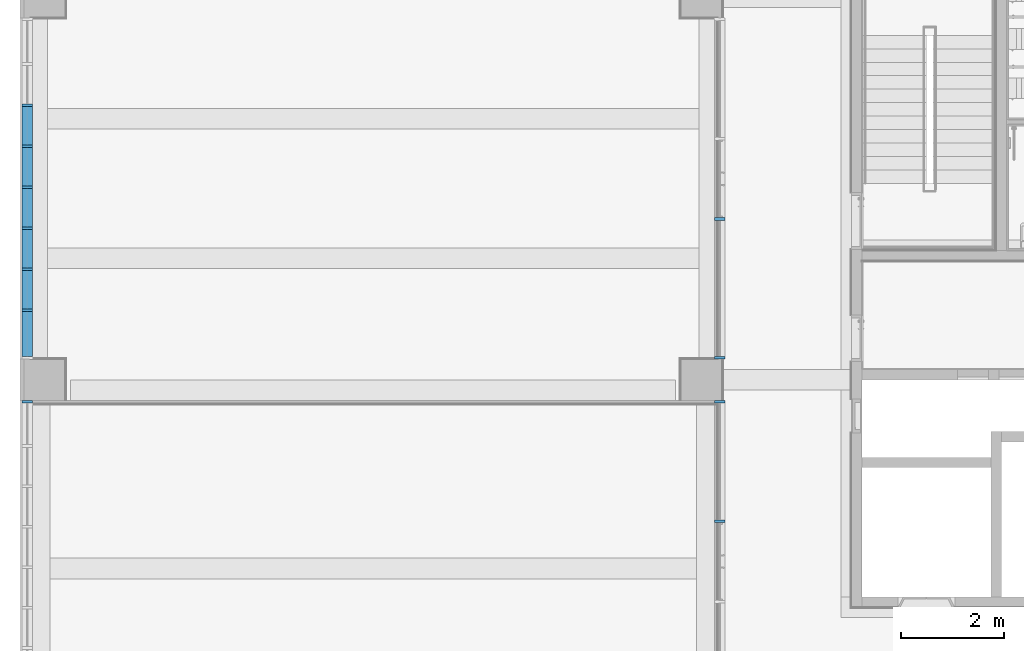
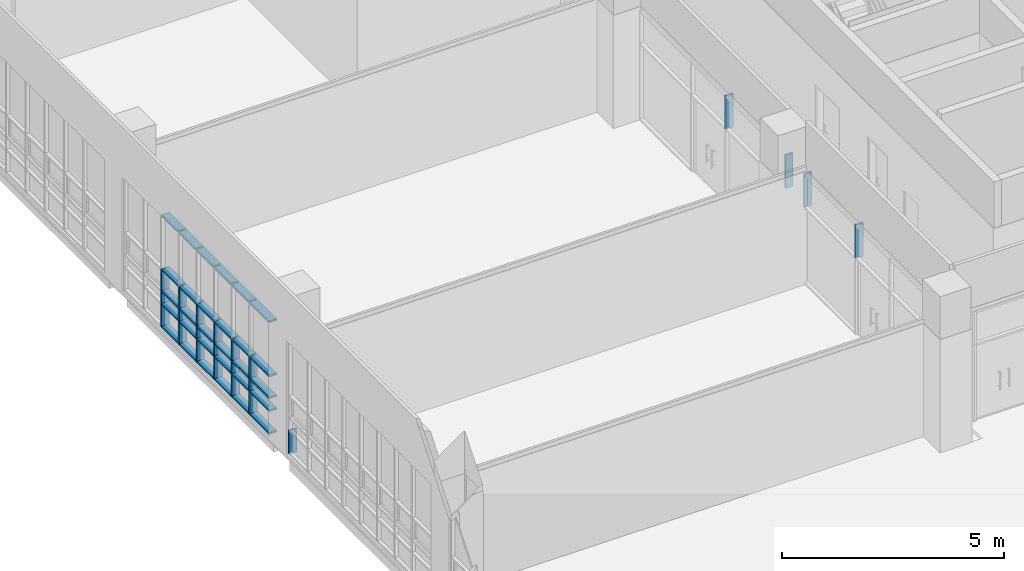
# One storey, part 19 of 74: 53 members, 4 elements without a shape of their own.
"""IFC2X3 building model written with IfcOpenShell, lengths in millimetres."""

from ifc_helpers import new_model, entity, si_unit, converted_unit, derived_unit, direction, frame, origin, origin_2d_with_axis, place, context, subcontext, project, spatial, rectangle, extrude, source, transform, mapped, material, type_object, type_shapes, element, aggregate, save


model = new_model("IFC2X3")

# Units and contexts
model_context = context("Model", 3, precision=0.01, world=origin(), true_north=direction((6.123031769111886e-17, 1.0)))
body_context = subcontext(model_context, "Body", "Model", "MODEL_VIEW")
ifc_project = project(units=[si_unit("LENGTHUNIT", "METRE", prefix="MILLI"), si_unit("AREAUNIT", "SQUARE_METRE"), si_unit("VOLUMEUNIT", "CUBIC_METRE"), converted_unit("PLANEANGLEUNIT", "DEGREE", entity("IfcRatioMeasure", 0.017453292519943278), si_unit("PLANEANGLEUNIT", "RADIAN"), dimensions=[0, 0, 0, 0, 0, 0, 0]), si_unit("MASSUNIT", "GRAM", prefix="KILO"), derived_unit("MASSDENSITYUNIT", [(si_unit("MASSUNIT", "GRAM", prefix="KILO"), 1), (si_unit("LENGTHUNIT", "METRE"), -3)]), derived_unit("MOMENTOFINERTIAUNIT", [(si_unit("LENGTHUNIT", "METRE"), 4)]), si_unit("TIMEUNIT", "SECOND"), si_unit("FREQUENCYUNIT", "HERTZ"), si_unit("THERMODYNAMICTEMPERATUREUNIT", "DEGREE_CELSIUS"), derived_unit("THERMALTRANSMITTANCEUNIT", [(si_unit("MASSUNIT", "GRAM", prefix="KILO"), 1), (si_unit("THERMODYNAMICTEMPERATUREUNIT", "KELVIN"), -1), (si_unit("TIMEUNIT", "SECOND"), -3)]), derived_unit("VOLUMETRICFLOWRATEUNIT", [(si_unit("LENGTHUNIT", "METRE"), 3), (si_unit("TIMEUNIT", "SECOND"), -1)]), derived_unit("MASSFLOWRATEUNIT", [(si_unit("MASSUNIT", "GRAM", prefix="KILO"), 1), (si_unit("TIMEUNIT", "SECOND"), -1)]), derived_unit("ROTATIONALFREQUENCYUNIT", [(si_unit("TIMEUNIT", "SECOND"), -1)]), si_unit("ELECTRICCURRENTUNIT", "AMPERE"), si_unit("ELECTRICVOLTAGEUNIT", "VOLT"), si_unit("POWERUNIT", "WATT"), si_unit("FORCEUNIT", "NEWTON", prefix="KILO"), si_unit("ILLUMINANCEUNIT", "LUX"), si_unit("LUMINOUSFLUXUNIT", "LUMEN"), si_unit("LUMINOUSINTENSITYUNIT", "CANDELA"), derived_unit("USERDEFINED", [(si_unit("MASSUNIT", "GRAM", prefix="KILO"), -1), (si_unit("LENGTHUNIT", "METRE"), -2), (si_unit("TIMEUNIT", "SECOND"), 3), (si_unit("LUMINOUSFLUXUNIT", "LUMEN"), 1)]), derived_unit("SOUNDPOWERUNIT", [(si_unit("MASSUNIT", "GRAM", prefix="KILO"), 1), (si_unit("LENGTHUNIT", "METRE"), 2), (si_unit("TIMEUNIT", "SECOND"), -3)]), derived_unit("SOUNDPRESSUREUNIT", [(si_unit("MASSUNIT", "GRAM", prefix="KILO"), 1), (si_unit("LENGTHUNIT", "METRE"), -1), (si_unit("TIMEUNIT", "SECOND"), -2)]), derived_unit("LINEARVELOCITYUNIT", [(si_unit("LENGTHUNIT", "METRE"), 1), (si_unit("TIMEUNIT", "SECOND"), -1)]), si_unit("PRESSUREUNIT", "PASCAL"), derived_unit("USERDEFINED", [(si_unit("LENGTHUNIT", "METRE"), -2), (si_unit("MASSUNIT", "GRAM", prefix="KILO"), 1), (si_unit("TIMEUNIT", "SECOND"), -2)]), derived_unit("LINEARFORCEUNIT", [(si_unit("MASSUNIT", "GRAM", prefix="KILO"), 1), (si_unit("LENGTHUNIT", "METRE"), 1), (si_unit("TIMEUNIT", "SECOND"), -2), (si_unit("LENGTHUNIT", "METRE"), -1)]), derived_unit("PLANARFORCEUNIT", [(si_unit("MASSUNIT", "GRAM", prefix="KILO"), 1), (si_unit("LENGTHUNIT", "METRE"), 1), (si_unit("TIMEUNIT", "SECOND"), -2), (si_unit("LENGTHUNIT", "METRE"), -2)])], contexts=[model_context])

# Site, building, storey
site_placement = place(None, frame((-14167.972527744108, -657.2125860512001, 0.0)))
site = spatial("IfcSite", under=ifc_project, at=site_placement, Name="Default", CompositionType="ELEMENT")
building_placement = place(site_placement, origin())
building = spatial("IfcBuilding", under=site, at=building_placement, Name="Sample Building", CompositionType="ELEMENT")
storey_placement = place(building_placement, frame((0.0, 0.0, 4800.0)))
storey = spatial("IfcBuildingStorey", under=building, at=storey_placement, Name="지상 2층", CompositionType="ELEMENT", Elevation=4800.000000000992)

# Curtain wall, members
curtain_wall_type = type_object("IfcCurtainWallType", Name="커튼월:CW112-스테인리스 스틸 커튼월", PredefinedType="NOTDEFINED")
curtain_wall_1_placement = place(storey_placement, frame((0.0, 0.0, -4800.0)))
curtain_wall_1 = element("IfcCurtainWall", 1, at=curtain_wall_1_placement, inside=storey, type_object=curtain_wall_type, Name="커튼월:CW112-스테인리스 스틸 커튼월", ObjectType="커튼월:CW112-스테인리스 스틸 커튼월")
ifc_material = material(Name="<Unnamed>")
member_type_1 = type_object("IfcMemberType", Name="직사각형 멀리언:CW200-직사각형 멀리언 50x200mm", PredefinedType="MULLION", material=ifc_material)
shared_shape_1 = source(origin(), body_context, "Body", "SweptSolid", [
    extrude(rectangle(XDim=200.0, YDim=50.0, at=origin_2d_with_axis()), frame((-25.0, 0.0, -868.7673840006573), z_axis=(0.0, 0.0, 1.0), x_axis=(0.0, -1.0, 0.0)), (0.0, 0.0, 1.0), 868.7673840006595),
])
type_shapes(member_type_1, [shared_shape_1])
member_1_placement = place(curtain_wall_1_placement, frame((14129.839654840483, 20407.19489124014, 8000.0), z_axis=(0.0, -1.0, 0.0), x_axis=(0.0, 0.0, 1.0)))
member_1 = element("IfcMember", 2, at=member_1_placement, type_object=member_type_1, material=ifc_material, Name="직사각형 멀리언:CW200-직사각형 멀리언 50x200mm", ObjectType="직사각형 멀리언:CW200-직사각형 멀리언 50x200mm", context=body_context, shape_type="MappedRepresentation", body=[
    mapped(shared_shape_1, transform((0.0, 0.0, 0.0), scale=1.0)),
])
member_type_2 = type_object("IfcMemberType", Name="직사각형 멀리언:CW200-직사각형 멀리언 50x200mm", PredefinedType="MULLION", material=ifc_material)
shared_shape_2 = source(origin(), body_context, "Body", "SweptSolid", [
    extrude(rectangle(XDim=200.0, YDim=50.0, at=origin_2d_with_axis()), frame((-25.0, 0.0, -743.7500000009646), z_axis=(0.0, 0.0, 1.0), x_axis=(0.0, -1.0, 0.0)), (0.0, 0.0, 1.0), 743.7500000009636),
])
type_shapes(member_type_2, [shared_shape_2])
member_2_placement = place(curtain_wall_1_placement, frame((14129.839654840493, 25244.712275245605, 4880.0), z_axis=(0.0, 1.0, 0.0), x_axis=(0.0, 0.0, -1.0)))
member_2 = element("IfcMember", 3, at=member_2_placement, type_object=member_type_2, material=ifc_material, Name="직사각형 멀리언:CW200-직사각형 멀리언 50x200mm", ObjectType="직사각형 멀리언:CW200-직사각형 멀리언 50x200mm", context=body_context, shape_type="MappedRepresentation", body=[
    mapped(shared_shape_2, transform((0.0, 0.0, 0.0), scale=1.0)),
])
member_3_placement = place(curtain_wall_1_placement, frame((14129.83965484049, 24450.962275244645, 4880.0), z_axis=(0.0, 1.0, 0.0), x_axis=(0.0, 0.0, -1.0)))
member_3 = element("IfcMember", 4, at=member_3_placement, type_object=member_type_2, material=ifc_material, Name="직사각형 멀리언:CW200-직사각형 멀리언 50x200mm", ObjectType="직사각형 멀리언:CW200-직사각형 멀리언 50x200mm", context=body_context, shape_type="MappedRepresentation", body=[
    mapped(shared_shape_2, transform((0.0, 0.0, 0.0), scale=1.0)),
])
member_4_placement = place(curtain_wall_1_placement, frame((14129.83965484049, 23657.212275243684, 4880.0), z_axis=(0.0, 1.0, 0.0), x_axis=(0.0, 0.0, -1.0)))
member_4 = element("IfcMember", 5, at=member_4_placement, type_object=member_type_2, material=ifc_material, Name="직사각형 멀리언:CW200-직사각형 멀리언 50x200mm", ObjectType="직사각형 멀리언:CW200-직사각형 멀리언 50x200mm", context=body_context, shape_type="MappedRepresentation", body=[
    mapped(shared_shape_2, transform((0.0, 0.0, 0.0), scale=1.0)),
])
member_5_placement = place(curtain_wall_1_placement, frame((14129.839654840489, 22863.46227524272, 4880.0), z_axis=(0.0, 1.0, 0.0), x_axis=(0.0, 0.0, -1.0)))
member_5 = element("IfcMember", 6, at=member_5_placement, type_object=member_type_2, material=ifc_material, Name="직사각형 멀리언:CW200-직사각형 멀리언 50x200mm", ObjectType="직사각형 멀리언:CW200-직사각형 멀리언 50x200mm", context=body_context, shape_type="MappedRepresentation", body=[
    mapped(shared_shape_2, transform((0.0, 0.0, 0.0), scale=1.0)),
])
member_6_placement = place(curtain_wall_1_placement, frame((14129.839654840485, 22069.71227524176, 4880.0), z_axis=(0.0, 1.0, 0.0), x_axis=(0.0, 0.0, -1.0)))
member_6 = element("IfcMember", 7, at=member_6_placement, type_object=member_type_2, material=ifc_material, Name="직사각형 멀리언:CW200-직사각형 멀리언 50x200mm", ObjectType="직사각형 멀리언:CW200-직사각형 멀리언 50x200mm", context=body_context, shape_type="MappedRepresentation", body=[
    mapped(shared_shape_2, transform((0.0, 0.0, 0.0), scale=1.0)),
])
member_type_3 = type_object("IfcMemberType", Name="직사각형 멀리언:CW200-직사각형 멀리언 50x200mm", PredefinedType="MULLION", material=ifc_material)
shared_shape_3 = source(origin(), body_context, "Body", "SweptSolid", [
    extrude(rectangle(XDim=200.0, YDim=50.0, at=origin_2d_with_axis()), frame((0.0, 0.0, -650.0), z_axis=(0.0, 0.0, 1.0), x_axis=(0.0, -1.0, 0.0)), (0.0, 0.0, 1.0), 650.0000000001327),
])
type_shapes(member_type_3, [shared_shape_3])
member_7_placement = place(curtain_wall_1_placement, frame((14129.839654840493, 25269.712275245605, 4880.0), z_axis=(0.0, 0.0, -1.0), x_axis=(0.0, -1.0, 0.0)))
member_7 = element("IfcMember", 8, at=member_7_placement, type_object=member_type_3, material=ifc_material, Name="직사각형 멀리언:CW200-직사각형 멀리언 50x200mm", ObjectType="직사각형 멀리언:CW200-직사각형 멀리언 50x200mm", context=body_context, shape_type="MappedRepresentation", body=[
    mapped(shared_shape_3, transform((0.0, 0.0, 0.0), scale=1.0)),
])
member_8_placement = place(curtain_wall_1_placement, frame((14129.83965484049, 24475.962275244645, 4880.0), z_axis=(0.0, 0.0, -1.0), x_axis=(0.0, -1.0, 0.0)))
member_8 = element("IfcMember", 9, at=member_8_placement, type_object=member_type_3, material=ifc_material, Name="직사각형 멀리언:CW200-직사각형 멀리언 50x200mm", ObjectType="직사각형 멀리언:CW200-직사각형 멀리언 50x200mm", context=body_context, shape_type="MappedRepresentation", body=[
    mapped(shared_shape_3, transform((0.0, 0.0, 0.0), scale=1.0)),
])
member_9_placement = place(curtain_wall_1_placement, frame((14129.83965484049, 23682.21227524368, 4880.0), z_axis=(0.0, 0.0, -1.0), x_axis=(0.0, -1.0, 0.0)))
member_9 = element("IfcMember", 10, at=member_9_placement, type_object=member_type_3, material=ifc_material, Name="직사각형 멀리언:CW200-직사각형 멀리언 50x200mm", ObjectType="직사각형 멀리언:CW200-직사각형 멀리언 50x200mm", context=body_context, shape_type="MappedRepresentation", body=[
    mapped(shared_shape_3, transform((0.0, 0.0, 0.0), scale=1.0)),
])
member_10_placement = place(curtain_wall_1_placement, frame((14129.839654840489, 22888.46227524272, 4880.0), z_axis=(0.0, 0.0, -1.0), x_axis=(0.0, -1.0, 0.0)))
member_10 = element("IfcMember", 11, at=member_10_placement, type_object=member_type_3, material=ifc_material, Name="직사각형 멀리언:CW200-직사각형 멀리언 50x200mm", ObjectType="직사각형 멀리언:CW200-직사각형 멀리언 50x200mm", context=body_context, shape_type="MappedRepresentation", body=[
    mapped(shared_shape_3, transform((0.0, 0.0, 0.0), scale=1.0)),
])
member_11_placement = place(curtain_wall_1_placement, frame((14129.839654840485, 22094.71227524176, 4880.0), z_axis=(0.0, 0.0, -1.0), x_axis=(0.0, -1.0, 0.0)))
member_11 = element("IfcMember", 12, at=member_11_placement, type_object=member_type_3, material=ifc_material, Name="직사각형 멀리언:CW200-직사각형 멀리언 50x200mm", ObjectType="직사각형 멀리언:CW200-직사각형 멀리언 50x200mm", context=body_context, shape_type="MappedRepresentation", body=[
    mapped(shared_shape_3, transform((0.0, 0.0, 0.0), scale=1.0)),
])
member_12_placement = place(curtain_wall_1_placement, frame((14129.839654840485, 21300.962275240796, 4880.0), z_axis=(0.0, 0.0, -1.0), x_axis=(0.0, -1.0, 0.0)))
member_12 = element("IfcMember", 13, at=member_12_placement, type_object=member_type_3, material=ifc_material, Name="직사각형 멀리언:CW200-직사각형 멀리언 50x200mm", ObjectType="직사각형 멀리언:CW200-직사각형 멀리언 50x200mm", context=body_context, shape_type="MappedRepresentation", body=[
    mapped(shared_shape_3, transform((0.0, 0.0, 0.0), scale=1.0)),
])
member_type_4 = type_object("IfcMemberType", Name="직사각형 멀리언:CW200-직사각형 멀리언 50x200mm", PredefinedType="MULLION", material=ifc_material)
shared_shape_4 = source(origin(), body_context, "Body", "SweptSolid", [
    extrude(rectangle(XDim=200.0, YDim=50.0, at=origin_2d_with_axis()), frame((0.0, 0.0, -743.7500000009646), z_axis=(0.0, 0.0, 1.0), x_axis=(0.0, -1.0, 0.0)), (0.0, 0.0, 1.0), 743.7500000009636),
])
type_shapes(member_type_4, [shared_shape_4])
member_13_placement = place(curtain_wall_1_placement, frame((14129.83965484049, 24500.962275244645, 6480.0), z_axis=(0.0, -1.0, 0.0), x_axis=(0.0, 0.0, 1.0)))
member_13 = element("IfcMember", 14, at=member_13_placement, type_object=member_type_4, material=ifc_material, Name="직사각형 멀리언:CW200-직사각형 멀리언 50x200mm", ObjectType="직사각형 멀리언:CW200-직사각형 멀리언 50x200mm", context=body_context, shape_type="MappedRepresentation", body=[
    mapped(shared_shape_4, transform((0.0, 0.0, 0.0), scale=1.0)),
])
member_14_placement = place(curtain_wall_1_placement, frame((14129.83965484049, 23707.21227524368, 6480.0), z_axis=(0.0, -1.0, 0.0), x_axis=(0.0, 0.0, 1.0)))
member_14 = element("IfcMember", 15, at=member_14_placement, type_object=member_type_4, material=ifc_material, Name="직사각형 멀리언:CW200-직사각형 멀리언 50x200mm", ObjectType="직사각형 멀리언:CW200-직사각형 멀리언 50x200mm", context=body_context, shape_type="MappedRepresentation", body=[
    mapped(shared_shape_4, transform((0.0, 0.0, 0.0), scale=1.0)),
])
member_15_placement = place(curtain_wall_1_placement, frame((14129.839654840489, 22913.462275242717, 6480.0), z_axis=(0.0, -1.0, 0.0), x_axis=(0.0, 0.0, 1.0)))
member_15 = element("IfcMember", 16, at=member_15_placement, type_object=member_type_4, material=ifc_material, Name="직사각형 멀리언:CW200-직사각형 멀리언 50x200mm", ObjectType="직사각형 멀리언:CW200-직사각형 멀리언 50x200mm", context=body_context, shape_type="MappedRepresentation", body=[
    mapped(shared_shape_4, transform((0.0, 0.0, 0.0), scale=1.0)),
])
member_16_placement = place(curtain_wall_1_placement, frame((14129.839654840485, 22119.71227524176, 6480.0), z_axis=(0.0, -1.0, 0.0), x_axis=(0.0, 0.0, 1.0)))
member_16 = element("IfcMember", 17, at=member_16_placement, type_object=member_type_4, material=ifc_material, Name="직사각형 멀리언:CW200-직사각형 멀리언 50x200mm", ObjectType="직사각형 멀리언:CW200-직사각형 멀리언 50x200mm", context=body_context, shape_type="MappedRepresentation", body=[
    mapped(shared_shape_4, transform((0.0, 0.0, 0.0), scale=1.0)),
])
member_17_placement = place(curtain_wall_1_placement, frame((14129.839654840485, 21325.962275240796, 6480.0), z_axis=(0.0, -1.0, 0.0), x_axis=(0.0, 0.0, 1.0)))
member_17 = element("IfcMember", 18, at=member_17_placement, type_object=member_type_4, material=ifc_material, Name="직사각형 멀리언:CW200-직사각형 멀리언 50x200mm", ObjectType="직사각형 멀리언:CW200-직사각형 멀리언 50x200mm", context=body_context, shape_type="MappedRepresentation", body=[
    mapped(shared_shape_4, transform((0.0, 0.0, 0.0), scale=1.0)),
])
member_18_placement = place(curtain_wall_1_placement, frame((14129.83965484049, 24500.962275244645, 5880.0), z_axis=(0.0, -1.0, 0.0), x_axis=(0.0, 0.0, 1.0)))
member_18 = element("IfcMember", 19, at=member_18_placement, type_object=member_type_4, material=ifc_material, Name="직사각형 멀리언:CW200-직사각형 멀리언 50x200mm", ObjectType="직사각형 멀리언:CW200-직사각형 멀리언 50x200mm", context=body_context, shape_type="MappedRepresentation", body=[
    mapped(shared_shape_4, transform((0.0, 0.0, 0.0), scale=1.0)),
])
member_19_placement = place(curtain_wall_1_placement, frame((14129.83965484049, 23707.21227524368, 5880.0), z_axis=(0.0, -1.0, 0.0), x_axis=(0.0, 0.0, 1.0)))
member_19 = element("IfcMember", 20, at=member_19_placement, type_object=member_type_4, material=ifc_material, Name="직사각형 멀리언:CW200-직사각형 멀리언 50x200mm", ObjectType="직사각형 멀리언:CW200-직사각형 멀리언 50x200mm", context=body_context, shape_type="MappedRepresentation", body=[
    mapped(shared_shape_4, transform((0.0, 0.0, 0.0), scale=1.0)),
])
member_20_placement = place(curtain_wall_1_placement, frame((14129.839654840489, 22913.462275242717, 5880.0), z_axis=(0.0, -1.0, 0.0), x_axis=(0.0, 0.0, 1.0)))
member_20 = element("IfcMember", 21, at=member_20_placement, type_object=member_type_4, material=ifc_material, Name="직사각형 멀리언:CW200-직사각형 멀리언 50x200mm", ObjectType="직사각형 멀리언:CW200-직사각형 멀리언 50x200mm", context=body_context, shape_type="MappedRepresentation", body=[
    mapped(shared_shape_4, transform((0.0, 0.0, 0.0), scale=1.0)),
])
member_21_placement = place(curtain_wall_1_placement, frame((14129.839654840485, 22119.71227524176, 5880.0), z_axis=(0.0, -1.0, 0.0), x_axis=(0.0, 0.0, 1.0)))
member_21 = element("IfcMember", 22, at=member_21_placement, type_object=member_type_4, material=ifc_material, Name="직사각형 멀리언:CW200-직사각형 멀리언 50x200mm", ObjectType="직사각형 멀리언:CW200-직사각형 멀리언 50x200mm", context=body_context, shape_type="MappedRepresentation", body=[
    mapped(shared_shape_4, transform((0.0, 0.0, 0.0), scale=1.0)),
])
member_22_placement = place(curtain_wall_1_placement, frame((14129.839654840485, 21325.962275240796, 5880.0), z_axis=(0.0, -1.0, 0.0), x_axis=(0.0, 0.0, 1.0)))
member_22 = element("IfcMember", 23, at=member_22_placement, type_object=member_type_4, material=ifc_material, Name="직사각형 멀리언:CW200-직사각형 멀리언 50x200mm", ObjectType="직사각형 멀리언:CW200-직사각형 멀리언 50x200mm", context=body_context, shape_type="MappedRepresentation", body=[
    mapped(shared_shape_4, transform((0.0, 0.0, 0.0), scale=1.0)),
])
member_23_placement = place(curtain_wall_1_placement, frame((14129.83965484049, 24500.962275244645, 5530.0), z_axis=(0.0, -1.0, 0.0), x_axis=(0.0, 0.0, 1.0)))
member_23 = element("IfcMember", 24, at=member_23_placement, type_object=member_type_4, material=ifc_material, Name="직사각형 멀리언:CW200-직사각형 멀리언 50x200mm", ObjectType="직사각형 멀리언:CW200-직사각형 멀리언 50x200mm", context=body_context, shape_type="MappedRepresentation", body=[
    mapped(shared_shape_4, transform((0.0, 0.0, 0.0), scale=1.0)),
])
member_24_placement = place(curtain_wall_1_placement, frame((14129.83965484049, 23707.21227524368, 5530.0), z_axis=(0.0, -1.0, 0.0), x_axis=(0.0, 0.0, 1.0)))
member_24 = element("IfcMember", 25, at=member_24_placement, type_object=member_type_4, material=ifc_material, Name="직사각형 멀리언:CW200-직사각형 멀리언 50x200mm", ObjectType="직사각형 멀리언:CW200-직사각형 멀리언 50x200mm", context=body_context, shape_type="MappedRepresentation", body=[
    mapped(shared_shape_4, transform((0.0, 0.0, 0.0), scale=1.0)),
])
member_25_placement = place(curtain_wall_1_placement, frame((14129.839654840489, 22913.462275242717, 5530.0), z_axis=(0.0, -1.0, 0.0), x_axis=(0.0, 0.0, 1.0)))
member_25 = element("IfcMember", 26, at=member_25_placement, type_object=member_type_4, material=ifc_material, Name="직사각형 멀리언:CW200-직사각형 멀리언 50x200mm", ObjectType="직사각형 멀리언:CW200-직사각형 멀리언 50x200mm", context=body_context, shape_type="MappedRepresentation", body=[
    mapped(shared_shape_4, transform((0.0, 0.0, 0.0), scale=1.0)),
])
member_26_placement = place(curtain_wall_1_placement, frame((14129.839654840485, 22119.71227524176, 5530.0), z_axis=(0.0, -1.0, 0.0), x_axis=(0.0, 0.0, 1.0)))
member_26 = element("IfcMember", 27, at=member_26_placement, type_object=member_type_4, material=ifc_material, Name="직사각형 멀리언:CW200-직사각형 멀리언 50x200mm", ObjectType="직사각형 멀리언:CW200-직사각형 멀리언 50x200mm", context=body_context, shape_type="MappedRepresentation", body=[
    mapped(shared_shape_4, transform((0.0, 0.0, 0.0), scale=1.0)),
])
member_27_placement = place(curtain_wall_1_placement, frame((14129.839654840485, 21325.962275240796, 5530.0), z_axis=(0.0, -1.0, 0.0), x_axis=(0.0, 0.0, 1.0)))
member_27 = element("IfcMember", 28, at=member_27_placement, type_object=member_type_4, material=ifc_material, Name="직사각형 멀리언:CW200-직사각형 멀리언 50x200mm", ObjectType="직사각형 멀리언:CW200-직사각형 멀리언 50x200mm", context=body_context, shape_type="MappedRepresentation", body=[
    mapped(shared_shape_4, transform((0.0, 0.0, 0.0), scale=1.0)),
])
member_type_5 = type_object("IfcMemberType", Name="직사각형 멀리언:CW200-직사각형 멀리언 50x200mm", PredefinedType="MULLION", material=ifc_material)
shared_shape_5 = source(origin(), body_context, "Body", "SweptSolid", [
    extrude(rectangle(XDim=200.0, YDim=50.0, at=origin_2d_with_axis()), frame((-25.0, 0.0, -743.7500000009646), z_axis=(0.0, 0.0, 1.0), x_axis=(0.0, -1.0, 0.0)), (0.0, 0.0, 1.0), 743.7500000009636),
])
type_shapes(member_type_5, [shared_shape_5])
member_28_placement = place(curtain_wall_1_placement, frame((14129.83965484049, 24500.962275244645, 8000.0), z_axis=(0.0, -1.0, 0.0), x_axis=(0.0, 0.0, 1.0)))
member_28 = element("IfcMember", 29, at=member_28_placement, type_object=member_type_5, material=ifc_material, Name="직사각형 멀리언:CW200-직사각형 멀리언 50x200mm", ObjectType="직사각형 멀리언:CW200-직사각형 멀리언 50x200mm", context=body_context, shape_type="MappedRepresentation", body=[
    mapped(shared_shape_5, transform((0.0, 0.0, 0.0), scale=1.0)),
])
member_29_placement = place(curtain_wall_1_placement, frame((14129.83965484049, 23707.21227524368, 8000.0), z_axis=(0.0, -1.0, 0.0), x_axis=(0.0, 0.0, 1.0)))
member_29 = element("IfcMember", 30, at=member_29_placement, type_object=member_type_5, material=ifc_material, Name="직사각형 멀리언:CW200-직사각형 멀리언 50x200mm", ObjectType="직사각형 멀리언:CW200-직사각형 멀리언 50x200mm", context=body_context, shape_type="MappedRepresentation", body=[
    mapped(shared_shape_5, transform((0.0, 0.0, 0.0), scale=1.0)),
])
member_30_placement = place(curtain_wall_1_placement, frame((14129.839654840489, 22913.462275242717, 8000.0), z_axis=(0.0, -1.0, 0.0), x_axis=(0.0, 0.0, 1.0)))
member_30 = element("IfcMember", 31, at=member_30_placement, type_object=member_type_5, material=ifc_material, Name="직사각형 멀리언:CW200-직사각형 멀리언 50x200mm", ObjectType="직사각형 멀리언:CW200-직사각형 멀리언 50x200mm", context=body_context, shape_type="MappedRepresentation", body=[
    mapped(shared_shape_5, transform((0.0, 0.0, 0.0), scale=1.0)),
])
member_31_placement = place(curtain_wall_1_placement, frame((14129.839654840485, 22119.71227524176, 8000.0), z_axis=(0.0, -1.0, 0.0), x_axis=(0.0, 0.0, 1.0)))
member_31 = element("IfcMember", 32, at=member_31_placement, type_object=member_type_5, material=ifc_material, Name="직사각형 멀리언:CW200-직사각형 멀리언 50x200mm", ObjectType="직사각형 멀리언:CW200-직사각형 멀리언 50x200mm", context=body_context, shape_type="MappedRepresentation", body=[
    mapped(shared_shape_5, transform((0.0, 0.0, 0.0), scale=1.0)),
])
member_32_placement = place(curtain_wall_1_placement, frame((14129.839654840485, 21325.962275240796, 8000.0), z_axis=(0.0, -1.0, 0.0), x_axis=(0.0, 0.0, 1.0)))
member_32 = element("IfcMember", 33, at=member_32_placement, type_object=member_type_5, material=ifc_material, Name="직사각형 멀리언:CW200-직사각형 멀리언 50x200mm", ObjectType="직사각형 멀리언:CW200-직사각형 멀리언 50x200mm", context=body_context, shape_type="MappedRepresentation", body=[
    mapped(shared_shape_5, transform((0.0, 0.0, 0.0), scale=1.0)),
])
member_type_6 = type_object("IfcMemberType", Name="직사각형 멀리언:CW200-직사각형 멀리언 50x200mm", PredefinedType="MULLION", material=ifc_material)
shared_shape_6 = source(origin(), body_context, "Body", "SweptSolid", [
    extrude(rectangle(XDim=200.0, YDim=50.0, at=origin_2d_with_axis()), frame((-25.0, 0.0, -868.7673840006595), z_axis=(0.0, 0.0, 1.0), x_axis=(0.0, -1.0, 0.0)), (0.0, 0.0, 1.0), 868.7673840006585),
])
type_shapes(member_type_6, [shared_shape_6])
member_33_placement = place(curtain_wall_1_placement, frame((14129.839654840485, 21275.9622752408, 4880.0), z_axis=(0.0, 1.0, 0.0), x_axis=(0.0, 0.0, -1.0)))
member_33 = element("IfcMember", 34, at=member_33_placement, type_object=member_type_6, material=ifc_material, Name="직사각형 멀리언:CW200-직사각형 멀리언 50x200mm", ObjectType="직사각형 멀리언:CW200-직사각형 멀리언 50x200mm", context=body_context, shape_type="MappedRepresentation", body=[
    mapped(shared_shape_6, transform((0.0, 0.0, 0.0), scale=1.0)),
])
member_type_7 = type_object("IfcMemberType", Name="직사각형 멀리언:CW200-직사각형 멀리언 50x200mm", PredefinedType="MULLION", material=ifc_material)
shared_shape_7 = source(origin(), body_context, "Body", "SweptSolid", [
    extrude(rectangle(XDim=200.0, YDim=50.0, at=origin_2d_with_axis()), frame((0.0, 0.0, -868.7673840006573), z_axis=(0.0, 0.0, 1.0), x_axis=(0.0, -1.0, 0.0)), (0.0, 0.0, 1.0), 868.7673840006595),
])
type_shapes(member_type_7, [shared_shape_7])
member_34_placement = place(curtain_wall_1_placement, frame((14129.839654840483, 20407.19489124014, 6480.0), z_axis=(0.0, -1.0, 0.0), x_axis=(0.0, 0.0, 1.0)))
member_34 = element("IfcMember", 35, at=member_34_placement, type_object=member_type_7, material=ifc_material, Name="직사각형 멀리언:CW200-직사각형 멀리언 50x200mm", ObjectType="직사각형 멀리언:CW200-직사각형 멀리언 50x200mm", context=body_context, shape_type="MappedRepresentation", body=[
    mapped(shared_shape_7, transform((0.0, 0.0, 0.0), scale=1.0)),
])
member_35_placement = place(curtain_wall_1_placement, frame((14129.839654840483, 20407.19489124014, 5880.0), z_axis=(0.0, -1.0, 0.0), x_axis=(0.0, 0.0, 1.0)))
member_35 = element("IfcMember", 36, at=member_35_placement, type_object=member_type_7, material=ifc_material, Name="직사각형 멀리언:CW200-직사각형 멀리언 50x200mm", ObjectType="직사각형 멀리언:CW200-직사각형 멀리언 50x200mm", context=body_context, shape_type="MappedRepresentation", body=[
    mapped(shared_shape_7, transform((0.0, 0.0, 0.0), scale=1.0)),
])
member_36_placement = place(curtain_wall_1_placement, frame((14129.839654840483, 20407.19489124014, 5530.0), z_axis=(0.0, -1.0, 0.0), x_axis=(0.0, 0.0, 1.0)))
member_36 = element("IfcMember", 37, at=member_36_placement, type_object=member_type_7, material=ifc_material, Name="직사각형 멀리언:CW200-직사각형 멀리언 50x200mm", ObjectType="직사각형 멀리언:CW200-직사각형 멀리언 50x200mm", context=body_context, shape_type="MappedRepresentation", body=[
    mapped(shared_shape_7, transform((0.0, 0.0, 0.0), scale=1.0)),
])
member_type_8 = type_object("IfcMemberType", Name="직사각형 멀리언:CW200-직사각형 멀리언 50x200mm", PredefinedType="MULLION", material=ifc_material)
shared_shape_8 = source(origin(), body_context, "Body", "SweptSolid", [
    extrude(rectangle(XDim=200.0, YDim=50.0, at=origin_2d_with_axis()), frame((0.0, 0.0, -600.0), z_axis=(0.0, 0.0, 1.0), x_axis=(0.0, -1.0, 0.0)), (0.0, 0.0, 1.0), 600.0),
])
type_shapes(member_type_8, [shared_shape_8])
member_37_placement = place(curtain_wall_1_placement, frame((14129.839654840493, 25269.712275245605, 5880.0), z_axis=(0.0, 0.0, -1.0), x_axis=(0.0, -1.0, 0.0)))
member_37 = element("IfcMember", 38, at=member_37_placement, type_object=member_type_8, material=ifc_material, Name="직사각형 멀리언:CW200-직사각형 멀리언 50x200mm", ObjectType="직사각형 멀리언:CW200-직사각형 멀리언 50x200mm", context=body_context, shape_type="MappedRepresentation", body=[
    mapped(shared_shape_8, transform((0.0, 0.0, 0.0), scale=1.0)),
])
member_38_placement = place(curtain_wall_1_placement, frame((14129.83965484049, 24475.962275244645, 5880.0), z_axis=(0.0, 0.0, -1.0), x_axis=(0.0, -1.0, 0.0)))
member_38 = element("IfcMember", 39, at=member_38_placement, type_object=member_type_8, material=ifc_material, Name="직사각형 멀리언:CW200-직사각형 멀리언 50x200mm", ObjectType="직사각형 멀리언:CW200-직사각형 멀리언 50x200mm", context=body_context, shape_type="MappedRepresentation", body=[
    mapped(shared_shape_8, transform((0.0, 0.0, 0.0), scale=1.0)),
])
member_39_placement = place(curtain_wall_1_placement, frame((14129.83965484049, 23682.21227524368, 5880.0), z_axis=(0.0, 0.0, -1.0), x_axis=(0.0, -1.0, 0.0)))
member_39 = element("IfcMember", 40, at=member_39_placement, type_object=member_type_8, material=ifc_material, Name="직사각형 멀리언:CW200-직사각형 멀리언 50x200mm", ObjectType="직사각형 멀리언:CW200-직사각형 멀리언 50x200mm", context=body_context, shape_type="MappedRepresentation", body=[
    mapped(shared_shape_8, transform((0.0, 0.0, 0.0), scale=1.0)),
])
member_40_placement = place(curtain_wall_1_placement, frame((14129.839654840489, 22888.46227524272, 5880.0), z_axis=(0.0, 0.0, -1.0), x_axis=(0.0, -1.0, 0.0)))
member_40 = element("IfcMember", 41, at=member_40_placement, type_object=member_type_8, material=ifc_material, Name="직사각형 멀리언:CW200-직사각형 멀리언 50x200mm", ObjectType="직사각형 멀리언:CW200-직사각형 멀리언 50x200mm", context=body_context, shape_type="MappedRepresentation", body=[
    mapped(shared_shape_8, transform((0.0, 0.0, 0.0), scale=1.0)),
])
member_41_placement = place(curtain_wall_1_placement, frame((14129.839654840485, 22094.71227524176, 5880.0), z_axis=(0.0, 0.0, -1.0), x_axis=(0.0, -1.0, 0.0)))
member_41 = element("IfcMember", 42, at=member_41_placement, type_object=member_type_8, material=ifc_material, Name="직사각형 멀리언:CW200-직사각형 멀리언 50x200mm", ObjectType="직사각형 멀리언:CW200-직사각형 멀리언 50x200mm", context=body_context, shape_type="MappedRepresentation", body=[
    mapped(shared_shape_8, transform((0.0, 0.0, 0.0), scale=1.0)),
])
member_42_placement = place(curtain_wall_1_placement, frame((14129.839654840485, 21300.962275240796, 5880.0), z_axis=(0.0, 0.0, -1.0), x_axis=(0.0, -1.0, 0.0)))
member_42 = element("IfcMember", 43, at=member_42_placement, type_object=member_type_8, material=ifc_material, Name="직사각형 멀리언:CW200-직사각형 멀리언 50x200mm", ObjectType="직사각형 멀리언:CW200-직사각형 멀리언 50x200mm", context=body_context, shape_type="MappedRepresentation", body=[
    mapped(shared_shape_8, transform((0.0, 0.0, 0.0), scale=1.0)),
])

# Curtain wall, member
curtain_wall_2_placement = place(storey_placement, frame((0.0, 0.0, -4800.0)))
curtain_wall_2 = element("IfcCurtainWall", 44, at=curtain_wall_2_placement, inside=storey, type_object=curtain_wall_type, Name="커튼월:CW112-스테인리스 스틸 커튼월", ObjectType="커튼월:CW112-스테인리스 스틸 커튼월")
member_type_9 = type_object("IfcMemberType", Name="직사각형 멀리언:CW200-직사각형 멀리언 50x200mm", PredefinedType="MULLION", material=ifc_material)
shared_shape_9 = source(origin(), body_context, "Body", "SweptSolid", [
    extrude(rectangle(XDim=200.0, YDim=50.0, at=origin_2d_with_axis()), frame((-25.0, 0.0, -650.0), z_axis=(0.0, 0.0, 1.0), x_axis=(0.0, -1.0, 0.0)), (0.0, 0.0, 1.0), 650.0000000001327),
])
type_shapes(member_type_9, [shared_shape_9])
member_43_placement = place(curtain_wall_2_placement, frame((14130.472570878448, 19557.212307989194, 5530.0), z_axis=(0.0, 0.0, 1.0), x_axis=(0.0, 1.0, 0.0)))
member_43 = element("IfcMember", 45, at=member_43_placement, type_object=member_type_9, material=ifc_material, Name="직사각형 멀리언:CW200-직사각형 멀리언 50x200mm", ObjectType="직사각형 멀리언:CW200-직사각형 멀리언 50x200mm", context=body_context, shape_type="MappedRepresentation", body=[
    mapped(shared_shape_9, transform((0.0, 0.0, 0.0), scale=1.0)),
])
aggregate(curtain_wall_2, [member_43])

# Member
member_type_10 = type_object("IfcMemberType", Name="직사각형 멀리언:CW200-직사각형 멀리언 50x200mm", PredefinedType="MULLION", material=ifc_material)
shared_shape_10 = source(origin(), body_context, "Body", "SweptSolid", [
    extrude(rectangle(XDim=200.0, YDim=50.0, at=origin_2d_with_axis()), frame((0.0, 0.0, -350.0), z_axis=(0.0, 0.0, 1.0), x_axis=(0.0, -1.0, 0.0)), (0.0, 0.0, 1.0), 349.9999999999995),
])
type_shapes(member_type_10, [shared_shape_10])
member_44_placement = place(curtain_wall_1_placement, frame((14129.839654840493, 25269.712275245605, 5530.0), z_axis=(0.0, 0.0, -1.0), x_axis=(0.0, -1.0, 0.0)))
member_44 = element("IfcMember", 46, at=member_44_placement, type_object=member_type_10, material=ifc_material, Name="직사각형 멀리언:CW200-직사각형 멀리언 50x200mm", ObjectType="직사각형 멀리언:CW200-직사각형 멀리언 50x200mm", context=body_context, shape_type="MappedRepresentation", body=[
    mapped(shared_shape_10, transform((0.0, 0.0, 0.0), scale=1.0)),
])

member_45_placement = place(curtain_wall_1_placement, frame((14129.83965484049, 24475.962275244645, 5530.0), z_axis=(0.0, 0.0, -1.0), x_axis=(0.0, -1.0, 0.0)))
member_45 = element("IfcMember", 47, at=member_45_placement, type_object=member_type_10, material=ifc_material, Name="직사각형 멀리언:CW200-직사각형 멀리언 50x200mm", ObjectType="직사각형 멀리언:CW200-직사각형 멀리언 50x200mm", context=body_context, shape_type="MappedRepresentation", body=[
    mapped(shared_shape_10, transform((0.0, 0.0, 0.0), scale=1.0)),
])

member_46_placement = place(curtain_wall_1_placement, frame((14129.83965484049, 23682.21227524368, 5530.0), z_axis=(0.0, 0.0, -1.0), x_axis=(0.0, -1.0, 0.0)))
member_46 = element("IfcMember", 48, at=member_46_placement, type_object=member_type_10, material=ifc_material, Name="직사각형 멀리언:CW200-직사각형 멀리언 50x200mm", ObjectType="직사각형 멀리언:CW200-직사각형 멀리언 50x200mm", context=body_context, shape_type="MappedRepresentation", body=[
    mapped(shared_shape_10, transform((0.0, 0.0, 0.0), scale=1.0)),
])

member_47_placement = place(curtain_wall_1_placement, frame((14129.839654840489, 22888.46227524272, 5530.0), z_axis=(0.0, 0.0, -1.0), x_axis=(0.0, -1.0, 0.0)))
member_47 = element("IfcMember", 49, at=member_47_placement, type_object=member_type_10, material=ifc_material, Name="직사각형 멀리언:CW200-직사각형 멀리언 50x200mm", ObjectType="직사각형 멀리언:CW200-직사각형 멀리언 50x200mm", context=body_context, shape_type="MappedRepresentation", body=[
    mapped(shared_shape_10, transform((0.0, 0.0, 0.0), scale=1.0)),
])

member_48_placement = place(curtain_wall_1_placement, frame((14129.839654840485, 22094.71227524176, 5530.0), z_axis=(0.0, 0.0, -1.0), x_axis=(0.0, -1.0, 0.0)))
member_48 = element("IfcMember", 50, at=member_48_placement, type_object=member_type_10, material=ifc_material, Name="직사각형 멀리언:CW200-직사각형 멀리언 50x200mm", ObjectType="직사각형 멀리언:CW200-직사각형 멀리언 50x200mm", context=body_context, shape_type="MappedRepresentation", body=[
    mapped(shared_shape_10, transform((0.0, 0.0, 0.0), scale=1.0)),
])

member_49_placement = place(curtain_wall_1_placement, frame((14129.839654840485, 21300.962275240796, 5530.0), z_axis=(0.0, 0.0, -1.0), x_axis=(0.0, -1.0, 0.0)))
member_49 = element("IfcMember", 51, at=member_49_placement, type_object=member_type_10, material=ifc_material, Name="직사각형 멀리언:CW200-직사각형 멀리언 50x200mm", ObjectType="직사각형 멀리언:CW200-직사각형 멀리언 50x200mm", context=body_context, shape_type="MappedRepresentation", body=[
    mapped(shared_shape_10, transform((0.0, 0.0, 0.0), scale=1.0)),
])

aggregate(curtain_wall_1, [member_1, member_2, member_13, member_7, member_28, member_3, member_14, member_8, member_29, member_4, member_15, member_9, member_30, member_5, member_16, member_10, member_31, member_6, member_17, member_11, member_32, member_33, member_34, member_12, member_18, member_19, member_20, member_21, member_22, member_35, member_37, member_38, member_39, member_40, member_41, member_42, member_23, member_24, member_25, member_26, member_27, member_36, member_44, member_45, member_46, member_47, member_48, member_49])

# Curtain wall, member
curtain_wall_3_placement = place(storey_placement, frame((0.0, 0.0, -4800.0)))
curtain_wall_3 = element("IfcCurtainWall", 52, at=curtain_wall_3_placement, inside=storey, type_object=curtain_wall_type, Name="커튼월:CW112-스테인리스 스틸 커튼월", ObjectType="커튼월:CW112-스테인리스 스틸 커튼월")
member_type_11 = type_object("IfcMemberType", Name="직사각형 멀리언:CW200-직사각형 멀리언 50x200mm", PredefinedType="MULLION", material=ifc_material)
shared_shape_11 = source(origin(), body_context, "Body", "SweptSolid", [
    extrude(rectangle(XDim=200.0, YDim=50.0, at=origin_2d_with_axis()), frame((-25.0, 0.0, -920.0), z_axis=(0.0, 0.0, 1.0), x_axis=(0.0, -1.0, 0.0)), (0.0, 0.0, 1.0), 920.0000000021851),
])
type_shapes(member_type_11, [shared_shape_11])
member_50_placement = place(curtain_wall_3_placement, frame((27522.972491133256, 19557.212307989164, 7900.0), z_axis=(0.0, 0.0, 1.0), x_axis=(0.0, 1.0, 0.0)))
member_50 = element("IfcMember", 53, at=member_50_placement, type_object=member_type_11, material=ifc_material, Name="직사각형 멀리언:CW200-직사각형 멀리언 50x200mm", ObjectType="직사각형 멀리언:CW200-직사각형 멀리언 50x200mm", context=body_context, shape_type="MappedRepresentation", body=[
    mapped(shared_shape_11, transform((0.0, 0.0, 0.0), scale=1.0)),
])

# Curtain wall, members
curtain_wall_4_placement = place(storey_placement, frame((0.0, 0.0, -4800.0)))
curtain_wall_4 = element("IfcCurtainWall", 54, at=curtain_wall_4_placement, inside=storey, type_object=curtain_wall_type, Name="커튼월:CW112-스테인리스 스틸 커튼월", ObjectType="커튼월:CW112-스테인리스 스틸 커튼월")
member_type_12 = type_object("IfcMemberType", Name="직사각형 멀리언:CW200-직사각형 멀리언 50x200mm", PredefinedType="MULLION", material=ifc_material)
shared_shape_12 = source(origin(), body_context, "Body", "SweptSolid", [
    extrude(rectangle(XDim=200.0, YDim=50.0, at=origin_2d_with_axis()), frame((-25.0, 0.0, -920.0), z_axis=(0.0, 0.0, 1.0), x_axis=(0.0, -1.0, 0.0)), (0.0, 0.0, 1.0), 920.0000000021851),
])
type_shapes(member_type_12, [shared_shape_12])
member_51_placement = place(curtain_wall_4_placement, frame((27522.95510516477, 20357.212307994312, 6980.0), z_axis=(0.0, 0.0, -1.0), x_axis=(0.0, -1.0, 0.0)))
member_51 = element("IfcMember", 55, at=member_51_placement, type_object=member_type_12, material=ifc_material, Name="직사각형 멀리언:CW200-직사각형 멀리언 50x200mm", ObjectType="직사각형 멀리언:CW200-직사각형 멀리언 50x200mm", context=body_context, shape_type="MappedRepresentation", body=[
    mapped(shared_shape_12, transform((0.0, 0.0, 0.0), scale=1.0)),
])
member_type_13 = type_object("IfcMemberType", Name="직사각형 멀리언:CW200-직사각형 멀리언 50x200mm", PredefinedType="MULLION", material=ifc_material)
shared_shape_13 = source(origin(), body_context, "Body", "SweptSolid", [
    extrude(rectangle(XDim=200.0, YDim=50.0, at=origin_2d_with_axis()), frame((0.0, 0.0, -920.0), z_axis=(0.0, 0.0, 1.0), x_axis=(0.0, -1.0, 0.0)), (0.0, 0.0, 1.0), 920.0000000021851),
])
type_shapes(member_type_13, [shared_shape_13])
member_52_placement = place(curtain_wall_4_placement, frame((27522.955105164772, 23067.212307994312, 6980.0), z_axis=(0.0, 0.0, -1.0), x_axis=(0.0, -1.0, 0.0)))
member_52 = element("IfcMember", 56, at=member_52_placement, type_object=member_type_13, material=ifc_material, Name="직사각형 멀리언:CW200-직사각형 멀리언 50x200mm", ObjectType="직사각형 멀리언:CW200-직사각형 멀리언 50x200mm", context=body_context, shape_type="MappedRepresentation", body=[
    mapped(shared_shape_13, transform((0.0, 0.0, 0.0), scale=1.0)),
])
aggregate(curtain_wall_4, [member_51, member_52])

# Member
member_53_placement = place(curtain_wall_3_placement, frame((27522.972491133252, 17217.17762439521, 6980.0), z_axis=(0.0, 0.0, -1.0), x_axis=(0.0, -1.0, 0.0)))
member_53 = element("IfcMember", 57, at=member_53_placement, type_object=member_type_13, material=ifc_material, Name="직사각형 멀리언:CW200-직사각형 멀리언 50x200mm", ObjectType="직사각형 멀리언:CW200-직사각형 멀리언 50x200mm", context=body_context, shape_type="MappedRepresentation", body=[
    mapped(shared_shape_13, transform((0.0, 0.0, 0.0), scale=1.0)),
])

aggregate(curtain_wall_3, [member_50, member_53])

save(model, "model.ifc")
